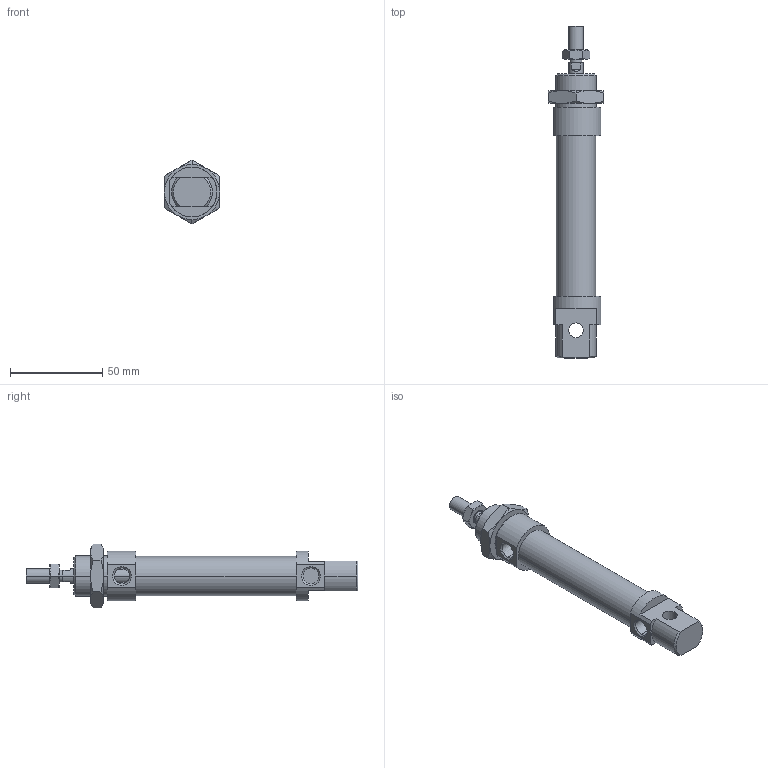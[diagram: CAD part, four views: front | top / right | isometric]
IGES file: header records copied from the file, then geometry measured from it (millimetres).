
Global section: file name: No Iges File Name specified; native system: AutoDesk Inventor R6.0; preprocessor: AutoDesk Inventor Iges Exporter R6.0; author: No Author specified; organization: No Organization specified; date: 20030407.191315; units: millimetre
Bounding box: 30 x 180 x 34.64 mm (x, y, z)
Volume: 62006.2 mm3; surface area: 20374.8 mm2
Topology: 4 solids, 4 shells, 124 faces, 281 edges, 170 vertices
Faces by surface type: plane 41, cone 38, bspline 21, cylinder 18, revolution 6
